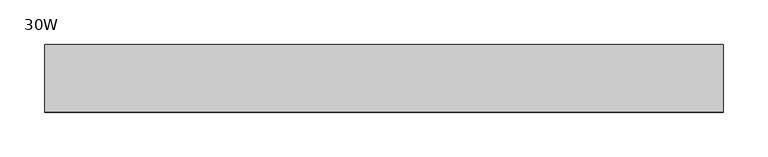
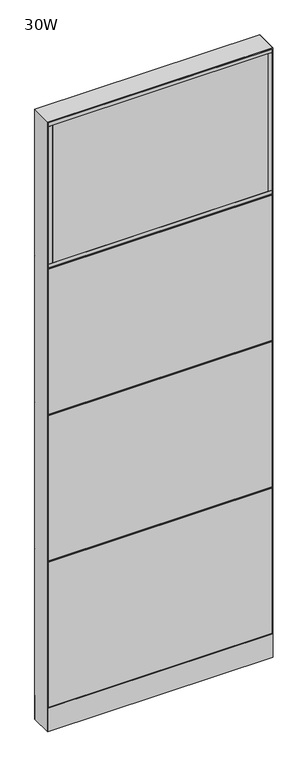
"""IFC4 building model written with IfcOpenShell, lengths in millimetres: furniture geometry, Steelcase - Montage - Frame - 86H - Enhanced Monolithic - Base Cavity : 30W."""

import ifcopenshell
import ifcopenshell.guid

model = None  # the IFC model being written
_history = None  # IfcOwnerHistory: only IFC2X3 demands one
_inside = {}  # id of a spatial element -> (the spatial element, [elements in it])
_under = {}  # id of a project, library or spatial element -> (it, [spatial elements below it])
_declared = {}  # id of a project -> (the project, [libraries it declares])
_typed = {}  # id of a type object -> (the type object, [elements of that type])
_made_of = {}  # id of a material, layer set ... -> (it, [elements and type objects made of it])


def new_model(schema):
    """Start an empty IFC model of exactly this schema.

    Asked for "IFC4X3", IfcOpenShell would pick the latest addendum, in which some entities
    have other attributes; the version numbers below select the first issue.
    IFC2X3 requires an IfcOwnerHistory on every rooted entity: one is made here for all.
    """
    global model, _history
    if schema == "IFC4X3":
        model = ifcopenshell.file(schema_version=(4, 3, 0, 0))
    else:
        model = ifcopenshell.file(schema=schema)
    _inside.clear()
    _under.clear()
    _declared.clear()
    _typed.clear()
    _made_of.clear()
    _history = None
    if model.schema == "IFC2X3":
        org = make("IfcOrganization", Name="unknown")
        user = make(
            "IfcPersonAndOrganization",
            ThePerson=make("IfcPerson", FamilyName="unknown"),
            TheOrganization=org,
        )
        app = make(
            "IfcApplication",
            ApplicationDeveloper=org,
            Version="unknown",
            ApplicationFullName="unknown",
            ApplicationIdentifier="unknown",
        )
        _history = make(
            "IfcOwnerHistory",
            OwningUser=user,
            OwningApplication=app,
            ChangeAction="ADDED",
            CreationDate=0,
        )
    return model


def make(cls, **values):
    """One entity of the class cls with the attributes given. An attribute that is None is left unset."""
    return model.create_entity(
        cls, **{name: value for name, value in values.items() if value is not None}
    )


def rooted(cls, **values):
    """An entity with a GlobalId (a new one), such as an element, a storey or a relation."""
    return make(cls, GlobalId=ifcopenshell.guid.new(), OwnerHistory=_history, **values)


def si_unit(unit_type, name, prefix=None):
    """IfcSIUnit, for example si_unit("LENGTHUNIT", "METRE", prefix="MILLI")."""
    return make("IfcSIUnit", UnitType=unit_type, Prefix=prefix, Name=name)


def assignment(units):
    """IfcUnitAssignment: the units of a project."""
    return None if units is None else make("IfcUnitAssignment", Units=units)


def point(xyz):
    """IfcCartesianPoint."""
    return None if xyz is None else make("IfcCartesianPoint", Coordinates=xyz)


def direction(xyz):
    """IfcDirection."""
    return None if xyz is None else make("IfcDirection", DirectionRatios=xyz)


def frame(location, z_axis=None, x_axis=None):
    """IfcAxis2Placement3D, a coordinate frame: its origin and axes. An axis left out is left unset."""
    return make(
        "IfcAxis2Placement3D",
        Location=point(location),
        Axis=direction(z_axis),
        RefDirection=direction(x_axis),
    )


def frame_2d(location, x_axis=None):
    """IfcAxis2Placement2D, a coordinate frame in the plane: its origin and x axis."""
    return make(
        "IfcAxis2Placement2D", Location=point(location), RefDirection=direction(x_axis)
    )


def origin():
    """The frame at (0, 0, 0) with its axes left unset."""
    return frame((0.0, 0.0, 0.0))


def origin_with_axes():
    """The frame at (0, 0, 0) with the z axis (0, 0, 1) and the x axis (1, 0, 0) written out."""
    return frame((0.0, 0.0, 0.0), z_axis=(0.0, 0.0, 1.0), x_axis=(1.0, 0.0, 0.0))


def place(relative_to, where):
    """IfcLocalPlacement: puts the frame where relative to a parent placement (None: the world)."""
    return make(
        "IfcLocalPlacement", PlacementRelTo=relative_to, RelativePlacement=where
    )


def context(
    kind, dimensions, precision=None, world=None, true_north=None, identifier=None
):
    """IfcGeometricRepresentationContext, for example the 3D "Model" context."""
    return make(
        "IfcGeometricRepresentationContext",
        ContextIdentifier=identifier,
        ContextType=kind,
        CoordinateSpaceDimension=dimensions,
        Precision=precision,
        WorldCoordinateSystem=world,
        TrueNorth=true_north,
    )


def project(units=None, contexts=None):
    """IfcProject with its units and contexts."""
    return rooted(
        "IfcProject",
        Name="project",
        RepresentationContexts=contexts,
        UnitsInContext=assignment(units),
    )


def spatial(cls, under=None, at=None, **own):
    """A site, building, storey or space (cls), placed at a placement, below another one or the project."""
    s = rooted(cls, ObjectPlacement=at, **own)
    if under is not None:
        _under.setdefault(under.id(), (under, []))[1].append(s)
    return s


def polyline(points):
    """IfcPolyline through the points."""
    return make("IfcPolyline", Points=[point(p) for p in points])


def circle_curve(where, radius):
    """IfcCircle in the frame where."""
    return make("IfcCircle", Position=where, Radius=radius)


def trimmed(basis, trim1, trim2, sense, master):
    """IfcTrimmedCurve: the piece of a basis curve between two trims."""
    return make(
        "IfcTrimmedCurve",
        BasisCurve=basis,
        Trim1=trim1,
        Trim2=trim2,
        SenseAgreement=sense,
        MasterRepresentation=master,
    )


def segment(curve, same_sense, transition):
    """IfcCompositeCurveSegment."""
    return make(
        "IfcCompositeCurveSegment",
        Transition=transition,
        SameSense=same_sense,
        ParentCurve=curve,
    )


def composite_curve(segments, self_intersect=None):
    """IfcCompositeCurve: segments joined end to end."""
    return make("IfcCompositeCurve", Segments=segments, SelfIntersect=self_intersect)


def outline(outer, holes=None, kind="AREA"):
    """IfcArbitraryClosedProfileDef: a profile drawn as a closed curve; with holes, ...WithVoids."""
    if holes is None:
        return make("IfcArbitraryClosedProfileDef", ProfileType=kind, OuterCurve=outer)
    return make(
        "IfcArbitraryProfileDefWithVoids",
        ProfileType=kind,
        OuterCurve=outer,
        InnerCurves=holes,
    )


def extrude(swept, where, along, depth):
    """IfcExtrudedAreaSolid: the profile swept, set in the frame where, extruded along a direction by depth."""
    return make(
        "IfcExtrudedAreaSolid",
        SweptArea=swept,
        Position=where,
        ExtrudedDirection=direction(along),
        Depth=depth,
    )


def faces_of(points, faces, orient=None, outer=None):
    """IfcFace entities. A face is a list of loops; a loop is a list of indices into points, from 0.

    orient and outer hold one flag for each loop. By default every Orientation is true, the
    first loop of a face is its IfcFaceOuterBound and the others are IfcFaceBound.
    """
    made = []
    for i, loops in enumerate(faces):
        bounds = []
        for j, loop in enumerate(loops):
            is_outer = j == 0 if outer is None else outer[i][j]
            bounds.append(
                make(
                    "IfcFaceOuterBound" if is_outer else "IfcFaceBound",
                    Bound=make("IfcPolyLoop", Polygon=[points[k] for k in loop]),
                    Orientation=True if orient is None else orient[i][j],
                )
            )
        made.append(make("IfcFace", Bounds=bounds))
    return made


def faceted_brep(points, faces, orient=None, outer=None, voids=None):
    """IfcFacetedBrep: a solid bounded by flat faces; with voids (closed shells), ...WithVoids."""
    shared = [point(p) for p in points]
    hull = make("IfcClosedShell", CfsFaces=faces_of(shared, faces, orient, outer))
    if voids is None:
        return make("IfcFacetedBrep", Outer=hull)
    return make(
        "IfcFacetedBrepWithVoids",
        Outer=hull,
        Voids=[
            make(cls, CfsFaces=faces_of(shared, fs, o, b)) for cls, fs, o, b in voids
        ],
    )


def shape(context_of_items, identifier, shape_type, items):
    """IfcShapeRepresentation: the items that make up one representation, for example the "Body"."""
    return make(
        "IfcShapeRepresentation",
        ContextOfItems=context_of_items,
        RepresentationIdentifier=identifier,
        RepresentationType=shape_type,
        Items=items,
    )


def source(mapping_origin, context_of_items, identifier, shape_type, items):
    """IfcRepresentationMap: a shape defined once, which mapped items show again and again."""
    return make(
        "IfcRepresentationMap",
        MappingOrigin=mapping_origin,
        MappedRepresentation=shape(context_of_items, identifier, shape_type, items),
    )


def transform(
    local_origin,
    x_axis=None,
    y_axis=None,
    z_axis=None,
    scale=None,
    scale2=None,
    scale3=None,
    uniform=True,
):
    """IfcCartesianTransformationOperator3D, or its non-uniform kind. x_axis, y_axis, z_axis: its Axis1, 2, 3."""
    if uniform:
        return make(
            "IfcCartesianTransformationOperator3D",
            Axis1=direction(x_axis),
            Axis2=direction(y_axis),
            LocalOrigin=point(local_origin),
            Scale=scale,
            Axis3=direction(z_axis),
        )
    return make(
        "IfcCartesianTransformationOperator3DnonUniform",
        Axis1=direction(x_axis),
        Axis2=direction(y_axis),
        LocalOrigin=point(local_origin),
        Scale=scale,
        Axis3=direction(z_axis),
        Scale2=scale2,
        Scale3=scale3,
    )


def mapped(mapping_source, mapping_target):
    """IfcMappedItem: shows the shape of a source again, moved by a transform."""
    return make(
        "IfcMappedItem", MappingSource=mapping_source, MappingTarget=mapping_target
    )


def made_of(thing, what):
    """Note that an element or type object is made of a material, layer set ...; save() writes the relation."""
    if what is not None:
        _made_of.setdefault(what.id(), (what, []))[1].append(thing)
    return thing


def element(
    cls,
    number,
    at=None,
    inside=None,
    cuts=None,
    type_object=None,
    material=None,
    context=None,
    identifier="Body",
    shape_type=None,
    held_by="IfcProductDefinitionShape",
    body=None,
    shapes=None,
    **own,
):
    """One element of the class cls, such as IfcWall. Its Tag is "e" and its number.

    at: its placement. inside: the storey or other place that contains it. cuts: it is an
    opening in that element (IfcRelVoidsElement). A single representation is given by context,
    identifier, shape_type and body (its items); several are given by shapes. held_by: the class
    of the entity that holds the representations. save() writes the other relations.
    """
    e = rooted(cls, Tag="e%d" % number, ObjectPlacement=at, **own)
    if body is not None:
        shapes = [shape(context, identifier, shape_type, body)]
    if shapes is not None:
        e.Representation = make(held_by, Representations=shapes)
    if inside is not None:
        _inside.setdefault(inside.id(), (inside, []))[1].append(e)
    if cuts is not None:
        rooted(
            "IfcRelVoidsElement", RelatingBuildingElement=cuts, RelatedOpeningElement=e
        )
    if type_object is not None:
        _typed.setdefault(type_object.id(), (type_object, []))[1].append(e)
    return made_of(e, material)


def aggregate(whole, parts):
    """IfcRelAggregates: a whole, such as a stair, and the parts it consists of."""
    return rooted("IfcRelAggregates", RelatingObject=whole, RelatedObjects=parts)


def save(model, path):
    """Write the relations noted so far, then the file.

    IfcRelAggregates (storeys below a building ...), IfcRelContainedInSpatialStructure (elements
    in a storey), IfcRelDefinesByType, IfcRelAssociatesMaterial and IfcRelDeclares: one each for
    every whole, place, type object, material and project.
    """
    for whole, parts in _under.values():
        aggregate(whole, parts)
    for where, things in _inside.values():
        rooted(
            "IfcRelContainedInSpatialStructure",
            RelatedElements=things,
            RelatingStructure=where,
        )
    for kind, things in _typed.values():
        rooted("IfcRelDefinesByType", RelatedObjects=things, RelatingType=kind)
    for what, things in _made_of.values():
        rooted("IfcRelAssociatesMaterial", RelatedObjects=things, RelatingMaterial=what)
    for by, libraries in _declared.values():
        rooted("IfcRelDeclares", RelatingContext=by, RelatedDefinitions=libraries)
    model.write(path)


def furniture_30w_5734a022(model_context):
    return source(origin(), model_context, "Body", "SolidModel", [
        faceted_brep([(762.0, 38.1026253, 1660.5249956), (755.6500047, 31.7526299, 1654.1750003), (6.3499917, 31.7526299, 1654.1750003), (-5.4e-06, 38.102627, 1660.5249973), (6.3499917, 31.7526299, 1666.8749997), (755.6500047, 31.7526299, 1666.8749997)], [[[0, 1, 2, 3]], [[4, 2, 1, 5]], [[3, 2, 4]], [[5, 1, 0]], [[3, 4, 5, 0]]]),
        faceted_brep([(-5.4e-06, 38.102627, 1136.6500027), (6.3499917, 31.7526299, 1142.9999997), (755.6500047, 31.7526299, 1142.9999997), (762.0, 38.1026253, 1136.6500044), (755.6500047, 31.7526299, 1130.3000003), (6.3499917, 31.7526299, 1130.3000003)], [[[0, 1, 2, 3]], [[3, 4, 5, 0]], [[2, 4, 3]], [[0, 5, 1]], [[1, 5, 4, 2]]]),
        faceted_brep([(6.3499917, 31.7526299, 619.1249997), (6.3499917, 31.7526299, 606.4250003), (755.6500047, 31.7526299, 606.4250003), (755.6500047, 31.7526299, 619.1249997), (-5.4e-06, 38.102627, 612.7749973), (762.0, 38.1026253, 612.7749956)], [[[0, 1, 2, 3]], [[4, 1, 0]], [[3, 2, 5]], [[4, 0, 3, 5]], [[5, 2, 1, 4]]]),
        extrude(outline(polyline([(3.175, 31.7500194), (3.175, 38.1000194), (758.825, 38.1000194), (758.825, 31.7500194), (3.175, 31.7500194)])), frame((0.0, 0.0, 1139.825), z_axis=(0.0, 0.0, 1.0), x_axis=(1.0, 0.0, 0.0)), (0.0, 0.0, 1.0), 517.525),
        extrude(outline(polyline([(3.175, 31.7500194), (3.175, 38.1000194), (758.825, 38.1000194), (758.825, 31.7500194), (3.175, 31.7500194)])), frame((0.0, 0.0, 615.95), z_axis=(0.0, 0.0, 1.0), x_axis=(1.0, 0.0, 0.0)), (0.0, 0.0, 1.0), 517.525),
        extrude(outline(polyline([(3.175, 31.7500194), (3.175, 38.1000194), (758.825, 38.1000194), (758.825, 31.7500194), (3.175, 31.7500194)])), frame((0.0, 0.0, 92.075), z_axis=(0.0, 0.0, 1.0), x_axis=(1.0, 0.0, 0.0)), (0.0, 0.0, 1.0), 517.525),
        extrude(outline(polyline([(746.125, 38.1000015), (746.125, 31.7500017), (15.875, 31.7500017), (15.875, 38.1000015), (746.125, 38.1000015)])), frame((0.0, 0.0, 1676.4), z_axis=(0.0, 0.0, 1.0), x_axis=(1.0, 0.0, 0.0)), (0.0, 0.0, 1.0), 492.125),
        extrude(outline(polyline([(746.125, -31.7499985), (746.125, -38.1000015), (15.875, -38.1000015), (15.875, -31.7499985), (746.125, -31.7499985)])), frame((0.0, 0.0, 1676.4), z_axis=(0.0, 0.0, 1.0), x_axis=(1.0, 0.0, 0.0)), (0.0, 0.0, 1.0), 492.125),
        extrude(outline(polyline([(758.825, -38.1000015), (746.125, -38.1000015), (746.125, 38.1000015), (758.825, 38.1000015), (758.825, -38.1000015)])), frame((0.0, 0.0, 1676.4), z_axis=(0.0, 0.0, 1.0), x_axis=(1.0, 0.0, 0.0)), (0.0, 0.0, 1.0), 492.125),
        extrude(outline(polyline([(15.875, -38.1000015), (3.175, -38.1000015), (3.175, 38.1000015), (15.875, 38.1000015), (15.875, -38.1000015)])), frame((0.0, 0.0, 1676.4), z_axis=(0.0, 0.0, 1.0), x_axis=(1.0, 0.0, 0.0)), (0.0, 0.0, 1.0), 492.125),
        extrude(outline(polyline([(758.825, -38.1000015), (3.175, -38.1000015), (3.175, 38.1000015), (758.825, 38.1000015), (758.825, -38.1000015)])), frame((0.0, 0.0, 1663.7), z_axis=(0.0, 0.0, 1.0), x_axis=(1.0, 0.0, 0.0)), (0.0, 0.0, 1.0), 12.7),
        extrude(outline(polyline([(758.825, -38.1000015), (3.175, -38.1000015), (3.175, 38.1000015), (758.825, 38.1000015), (758.825, -38.1000015)])), frame((0.0, 0.0, 2168.525), z_axis=(0.0, 0.0, 1.0), x_axis=(1.0, 0.0, 0.0)), (0.0, 0.0, 1.0), 12.7),
        faceted_brep([(762.0, -38.1026297, 1660.525), (0.0, -38.1026297, 1660.525), (6.3499917, -31.7526299, 1654.1750003), (755.6500047, -31.7526299, 1654.1750003), (6.3499917, -31.7526299, 1666.8749997), (755.6500047, -31.7526299, 1666.8749997)], [[[0, 1, 2, 3]], [[4, 5, 3, 2]], [[1, 4, 2]], [[5, 0, 3]], [[1, 0, 5, 4]]]),
        faceted_brep([(0.0, -38.1026297, 1136.65), (762.0, -38.1026297, 1136.65), (755.6500047, -31.7526299, 1142.9999997), (6.3499917, -31.7526299, 1142.9999997), (6.3499917, -31.7526299, 1130.3000003), (755.6500047, -31.7526299, 1130.3000003)], [[[0, 1, 2, 3]], [[1, 0, 4, 5]], [[2, 1, 5]], [[0, 3, 4]], [[3, 2, 5, 4]]]),
        faceted_brep([(6.3499917, -31.7526299, 619.1249997), (755.6500047, -31.7526299, 619.1249997), (755.6500047, -31.7526299, 606.4250003), (6.3499917, -31.7526299, 606.4250003), (-5.4e-06, -38.102627, 612.7750027), (762.0, -38.1026253, 612.7750044)], [[[0, 1, 2, 3]], [[4, 0, 3]], [[1, 5, 2]], [[4, 5, 1, 0]], [[5, 4, 3, 2]]]),
        extrude(outline(polyline([(3.175, -31.7500194), (758.825, -31.7500194), (758.825, -38.1000194), (3.175, -38.1000194), (3.175, -31.7500194)])), frame((0.0, 0.0, 1139.825), z_axis=(0.0, 0.0, 1.0), x_axis=(1.0, 0.0, 0.0)), (0.0, 0.0, 1.0), 517.525),
        extrude(outline(polyline([(3.175, -31.7500194), (758.825, -31.7500194), (758.825, -38.1000194), (3.175, -38.1000194), (3.175, -31.7500194)])), frame((0.0, 0.0, 615.95), z_axis=(0.0, 0.0, 1.0), x_axis=(1.0, 0.0, 0.0)), (0.0, 0.0, 1.0), 517.525),
        extrude(outline(polyline([(3.175, -31.7500194), (758.825, -31.7500194), (758.825, -38.1000194), (3.175, -38.1000194), (3.175, -31.7500194)])), frame((0.0, 0.0, 92.075), z_axis=(0.0, 0.0, 1.0), x_axis=(1.0, 0.0, 0.0)), (0.0, 0.0, 1.0), 517.525),
        extrude(outline(polyline([(746.125, -38.1000015), (15.875, -38.1000015), (15.875, -31.7500017), (746.125, -31.7500017), (746.125, -38.1000015)])), frame((0.0, 0.0, 1676.4), z_axis=(0.0, 0.0, 1.0), x_axis=(1.0, 0.0, 0.0)), (0.0, 0.0, 1.0), 492.125),
        extrude(outline(polyline([(746.125, 31.7499985), (15.875, 31.7499985), (15.875, 38.1000015), (746.125, 38.1000015), (746.125, 31.7499985)])), frame((0.0, 0.0, 1676.4), z_axis=(0.0, 0.0, 1.0), x_axis=(1.0, 0.0, 0.0)), (0.0, 0.0, 1.0), 492.125),
        extrude(outline(polyline([(758.825, 38.1000015), (758.825, -38.1000015), (746.125, -38.1000015), (746.125, 38.1000015), (758.825, 38.1000015)])), frame((0.0, 0.0, 1676.4), z_axis=(0.0, 0.0, 1.0), x_axis=(1.0, 0.0, 0.0)), (0.0, 0.0, 1.0), 492.125),
        extrude(outline(polyline([(15.875, 38.1000015), (15.875, -38.1000015), (3.175, -38.1000015), (3.175, 38.1000015), (15.875, 38.1000015)])), frame((0.0, 0.0, 1676.4), z_axis=(0.0, 0.0, 1.0), x_axis=(1.0, 0.0, 0.0)), (0.0, 0.0, 1.0), 492.125),
        extrude(outline(polyline([(758.825, 38.1000015), (758.825, -38.1000015), (3.175, -38.1000015), (3.175, 38.1000015), (758.825, 38.1000015)])), frame((0.0, 0.0, 1663.7), z_axis=(0.0, 0.0, 1.0), x_axis=(1.0, 0.0, 0.0)), (0.0, 0.0, 1.0), 12.7),
        extrude(outline(polyline([(758.825, 38.1000015), (758.825, -38.1000015), (3.175, -38.1000015), (3.175, 38.1000015), (758.825, 38.1000015)])), frame((0.0, 0.0, 2168.525), z_axis=(0.0, 0.0, 1.0), x_axis=(1.0, 0.0, 0.0)), (0.0, 0.0, 1.0), 12.7),
        extrude(outline(polyline([(6.350003, -31.7499985), (755.649997, -31.7499985), (762.0, -38.1000015), (0.0, -38.1000015), (6.350003, -31.7499985)])), frame((0.0, 0.0, 4.064), z_axis=(0.0, 0.0, 1.0), x_axis=(1.0, 0.0, 0.0)), (0.0, 0.0, 1.0), 84.835997),
        extrude(outline(polyline([(6.3500002, 31.7500017), (0.0, 38.1000015), (762.0, 38.1000015), (755.6500002, 31.7500017), (6.3500002, 31.7500017)])), frame((0.0, 0.0, 4.064), z_axis=(0.0, 0.0, 1.0), x_axis=(1.0, 0.0, 0.0)), (0.0, 0.0, 1.0), 84.835997),
        faceted_brep([(762.0, -38.1000015, 2184.4), (0.0, -38.1000015, 2184.4), (6.3500484, -31.749953, 2178.0499516), (755.6499516, -31.749953, 2178.0499516), (6.3500484, 31.749953, 2178.0499516), (755.6499516, 31.749953, 2178.0499516), (0.0, 38.1000015, 2184.4), (762.0, 38.1000015, 2184.4)], [[[0, 1, 2, 3]], [[3, 2, 4, 5]], [[6, 7, 5, 4]], [[1, 0, 7, 6]], [[2, 1, 6, 4]], [[0, 3, 5, 7]]]),
        extrude(outline(composite_curve([segment(trimmed(circle_curve(frame_2d((44.45, 0.0)), 15.24), [point((29.21, 0.0))], [point((59.69, 0.0))], False, "CARTESIAN"), True, "CONTINUOUS"), segment(trimmed(circle_curve(frame_2d((44.45, 0.0)), 15.24), [point((59.69, 0.0))], [point((29.21, 0.0))], False, "CARTESIAN"), True, "CONTINUOUS")], self_intersect=False)), origin_with_axes(), (0.0, 0.0, 1.0), 4.064),
        extrude(outline(composite_curve([segment(trimmed(circle_curve(frame_2d((717.55, 0.0)), 15.24), [point((702.31, 0.0))], [point((732.79, 0.0))], False, "CARTESIAN"), True, "CONTINUOUS"), segment(trimmed(circle_curve(frame_2d((717.55, 0.0)), 15.24), [point((732.79, 0.0))], [point((702.31, 0.0))], False, "CARTESIAN"), True, "CONTINUOUS")], self_intersect=False)), origin_with_axes(), (0.0, 0.0, 1.0), 4.064),
        faceted_brep([(762.0, -38.1000106, 4.064), (762.0, 38.1000015, 4.064), (762.0, 38.1000015, 2184.4), (762.0, -38.1000106, 2184.3999637), (0.0, 38.1000015, 4.064), (0.0, -38.1000015, 4.064), (0.0, -38.1000015, 2184.4), (0.0, 38.1000015, 2184.4), (755.6499879, 31.7500017, 606.425), (6.35, 31.7500017, 606.425), (6.3499998, 31.7500017, 619.125), (755.6499879, 31.7500017, 619.125), (6.35, -31.7499985, 619.125), (755.6499879, -31.7499985, 619.125), (6.350003, -31.7499985, 606.425), (755.6499879, -31.7499985, 606.425), (755.6499879, 31.7500017, 1130.3), (6.35, 31.7500017, 1130.3), (6.3499998, 31.7500017, 1143.0), (755.6499879, 31.7500017, 1143.0), (6.35, -31.7499985, 1143.0), (755.6499879, -31.7499985, 1143.0), (6.350003, -31.7499985, 1130.3), (755.6499879, -31.7499985, 1130.3), (6.35, 31.7500015, 4.064), (6.35, -31.7500015, 4.064), (755.6499879, 31.7499894, 4.064), (755.6499879, -31.7499985, 4.064), (6.35, 31.7500015, 2178.05), (6.3499999, 31.7500016, 1666.875), (6.3499998, 31.7500017, 1654.175), (6.3500015, -31.75, 1654.175), (6.350003, -31.7499985, 1666.875), (6.35, -31.7500015, 2178.05), (755.6499879, 31.7500017, 1654.175), (755.6499879, -31.7499985, 1654.175), (755.6499879, 31.7500017, 1666.875), (755.6499879, -31.7499985, 1666.875), (755.6499879, -31.7499985, 2178.0499516), (755.6499879, 31.7499895, 2178.0499516)], [[[0, 1, 2, 3]], [[4, 5, 6, 7]], [[8, 9, 10, 11]], [[11, 10, 12, 13]], [[13, 12, 14, 15]], [[9, 8, 15, 14]], [[16, 17, 18, 19]], [[19, 18, 20, 21]], [[21, 20, 22, 23]], [[17, 16, 23, 22]], [[24, 25, 5, 4]], [[26, 1, 0, 27]], [[24, 4, 7, 28, 29, 30, 18, 17, 10, 9]], [[5, 25, 14, 12, 22, 20, 31, 32, 33, 6]], [[25, 24, 9, 14]], [[18, 30, 31, 20]], [[10, 17, 22, 12]], [[32, 29, 28, 33]], [[26, 27, 15, 8]], [[16, 11, 13, 23]], [[34, 19, 21, 35]], [[36, 37, 38, 39]], [[27, 0, 3, 38, 37, 35, 21, 23, 13, 15]], [[1, 26, 8, 11, 16, 19, 34, 36, 39, 2]], [[7, 6, 33, 28]], [[3, 2, 39, 38]], [[34, 30, 29, 36]], [[36, 29, 32, 37]], [[37, 32, 31, 35]], [[30, 34, 35, 31]]]),
    ])


if __name__ == "__main__":
    model = new_model("IFC4")
    model_context = context("Model", 3, world=origin())
    ifc_project = project(units=[si_unit("LENGTHUNIT", "METRE", prefix="MILLI")], contexts=[model_context])
    site = spatial("IfcSite", under=ifc_project)
    building = spatial("IfcBuilding", under=site)
    placement = place(None, origin())
    furniture_30w_shape = furniture_30w_5734a022(model_context)
    element("IfcFurniture", 1, ObjectType="Steelcase - Montage - Frame - 86H - Enhanced Monolithic - Base Cavity : 30W", at=placement, inside=building, context=model_context, shape_type="MappedRepresentation", body=[
        mapped(furniture_30w_shape, transform((0.0, 0.0, 0.0), x_axis=(1.0, 0.0, 0.0), y_axis=(0.0, 1.0, 0.0), z_axis=(0.0, 0.0, 1.0))),
    ])
    save(model, "model.ifc")
